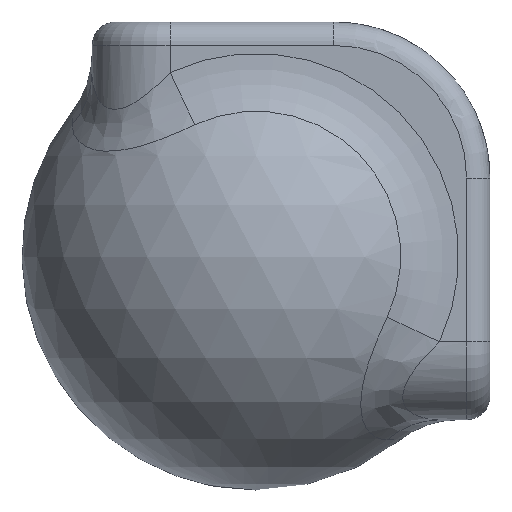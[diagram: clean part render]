
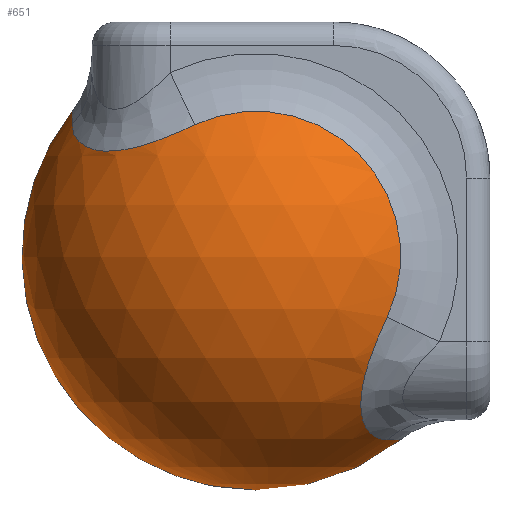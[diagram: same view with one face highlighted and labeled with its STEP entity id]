
A CAD part, front view. The second image highlights one B-rep face of the part: STEP entity #651.
In plain terms, the highlighted spherical face has radius 15 mm.
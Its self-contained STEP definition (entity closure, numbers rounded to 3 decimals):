
#18=SPHERICAL_SURFACE('',#732,15.);
#43=B_SPLINE_CURVE_WITH_KNOTS('',3,(#1178,#1179,#1180,#1181,#1182,#1183,
#1184,#1185),.UNSPECIFIED.,.F.,.F.,(4,1,1,1,1,4),(0.,0.387,
0.516,1.032,1.548,1.806),
 .UNSPECIFIED.);
#44=B_SPLINE_CURVE_WITH_KNOTS('',3,(#1189,#1190,#1191,#1192,#1193,#1194,
#1195,#1196),.UNSPECIFIED.,.F.,.F.,(4,1,1,1,1,4),(0.,0.258,
0.774,1.29,1.419,1.806),
 .UNSPECIFIED.);
#45=B_SPLINE_CURVE_WITH_KNOTS('',3,(#1203,#1204,#1205,#1206,#1207,#1208,
#1209),.UNSPECIFIED.,.F.,.F.,(4,1,1,1,4),(0.,0.516,
0.774,1.29,1.806),.UNSPECIFIED.);
#161=FACE_OUTER_BOUND('',#201,.T.);
#201=EDGE_LOOP('',(#558,#559,#560,#561,#562,#563,#564,#565,#566));
#248=CIRCLE('',#733,9.279);
#249=CIRCLE('',#734,9.279);
#250=CIRCLE('',#735,9.279);
#251=CIRCLE('',#736,15.);
#252=CIRCLE('',#737,9.279);
#312=VERTEX_POINT('',#1174);
#313=VERTEX_POINT('',#1175);
#314=VERTEX_POINT('',#1177);
#315=VERTEX_POINT('',#1186);
#316=VERTEX_POINT('',#1188);
#317=VERTEX_POINT('',#1197);
#318=VERTEX_POINT('',#1199);
#319=VERTEX_POINT('',#1201);
#401=EDGE_CURVE('',#312,#313,#248,.T.);
#402=EDGE_CURVE('',#314,#312,#43,.T.);
#403=EDGE_CURVE('',#315,#314,#249,.T.);
#404=EDGE_CURVE('',#316,#315,#44,.T.);
#405=EDGE_CURVE('',#317,#316,#250,.T.);
#406=EDGE_CURVE('',#317,#318,#251,.T.);
#407=EDGE_CURVE('',#319,#317,#252,.T.);
#408=EDGE_CURVE('',#313,#319,#45,.T.);
#558=ORIENTED_EDGE('',*,*,#401,.F.);
#559=ORIENTED_EDGE('',*,*,#402,.F.);
#560=ORIENTED_EDGE('',*,*,#403,.F.);
#561=ORIENTED_EDGE('',*,*,#404,.F.);
#562=ORIENTED_EDGE('',*,*,#405,.F.);
#563=ORIENTED_EDGE('',*,*,#406,.T.);
#564=ORIENTED_EDGE('',*,*,#406,.F.);
#565=ORIENTED_EDGE('',*,*,#407,.F.);
#566=ORIENTED_EDGE('',*,*,#408,.F.);
#651=ADVANCED_FACE('',(#161),#18,.T.);
#732=AXIS2_PLACEMENT_3D('',#1173,#927,#928);
#733=AXIS2_PLACEMENT_3D('',#1176,#929,#930);
#734=AXIS2_PLACEMENT_3D('',#1187,#931,#932);
#735=AXIS2_PLACEMENT_3D('',#1198,#933,#934);
#736=AXIS2_PLACEMENT_3D('',#1200,#935,#936);
#737=AXIS2_PLACEMENT_3D('',#1202,#937,#938);
#927=DIRECTION('center_axis',(0.,0.,1.));
#928=DIRECTION('ref_axis',(1.,0.,0.));
#929=DIRECTION('center_axis',(0.,0.,1.));
#930=DIRECTION('ref_axis',(0.707,0.707,0.));
#931=DIRECTION('center_axis',(0.,1.,0.));
#932=DIRECTION('ref_axis',(0.707,0.,0.707));
#933=DIRECTION('center_axis',(1.,0.,0.));
#934=DIRECTION('ref_axis',(0.,0.707,0.707));
#935=DIRECTION('center_axis',(0.,-1.,0.));
#936=DIRECTION('ref_axis',(-1.,0.,0.));
#937=DIRECTION('center_axis',(1.,0.,0.));
#938=DIRECTION('ref_axis',(0.,0.707,0.707));
#1173=CARTESIAN_POINT('Origin',(7.,7.,7.));
#1174=CARTESIAN_POINT('',(15.406,3.071,-4.786));
#1175=CARTESIAN_POINT('',(3.071,15.406,-4.786));
#1176=CARTESIAN_POINT('Origin',(7.,7.,-4.786));
#1177=CARTESIAN_POINT('',(15.406,-4.786,3.071));
#1178=CARTESIAN_POINT('Ctrl Pts',(15.406,-4.786,3.071));
#1179=CARTESIAN_POINT('Ctrl Pts',(15.016,-4.786,2.236));
#1180=CARTESIAN_POINT('Ctrl Pts',(14.534,-4.605,1.102));
#1181=CARTESIAN_POINT('Ctrl Pts',(13.807,-3.74,-1.084));
#1182=CARTESIAN_POINT('Ctrl Pts',(13.515,-1.961,-3.346));
#1183=CARTESIAN_POINT('Ctrl Pts',(14.408,0.837,-4.615));
#1184=CARTESIAN_POINT('Ctrl Pts',(15.146,2.515,-4.786));
#1185=CARTESIAN_POINT('Ctrl Pts',(15.406,3.071,-4.786));
#1186=CARTESIAN_POINT('',(3.071,-4.786,15.406));
#1187=CARTESIAN_POINT('Origin',(7.,-4.786,7.));
#1188=CARTESIAN_POINT('',(-4.786,3.071,15.406));
#1189=CARTESIAN_POINT('Ctrl Pts',(-4.786,3.071,15.406));
#1190=CARTESIAN_POINT('Ctrl Pts',(-4.786,2.515,15.146));
#1191=CARTESIAN_POINT('Ctrl Pts',(-4.615,0.837,14.408));
#1192=CARTESIAN_POINT('Ctrl Pts',(-3.346,-1.961,13.515));
#1193=CARTESIAN_POINT('Ctrl Pts',(-1.084,-3.74,13.807));
#1194=CARTESIAN_POINT('Ctrl Pts',(1.102,-4.605,14.534));
#1195=CARTESIAN_POINT('Ctrl Pts',(2.236,-4.786,15.016));
#1196=CARTESIAN_POINT('Ctrl Pts',(3.071,-4.786,15.406));
#1197=CARTESIAN_POINT('',(-4.786,7.,16.279));
#1198=CARTESIAN_POINT('Origin',(-4.786,7.,7.));
#1199=CARTESIAN_POINT('',(7.,7.,-8.));
#1200=CARTESIAN_POINT('Origin',(7.,7.,7.));
#1201=CARTESIAN_POINT('',(-4.786,15.406,3.071));
#1202=CARTESIAN_POINT('Origin',(-4.786,7.,7.));
#1203=CARTESIAN_POINT('Ctrl Pts',(3.071,15.406,-4.786));
#1204=CARTESIAN_POINT('Ctrl Pts',(1.958,14.886,-4.786));
#1205=CARTESIAN_POINT('Ctrl Pts',(0.247,14.175,-4.429));
#1206=CARTESIAN_POINT('Ctrl Pts',(-2.365,13.573,-2.84));
#1207=CARTESIAN_POINT('Ctrl Pts',(-4.323,13.916,-0.33));
#1208=CARTESIAN_POINT('Ctrl Pts',(-4.786,14.886,1.958));
#1209=CARTESIAN_POINT('Ctrl Pts',(-4.786,15.406,3.071));
